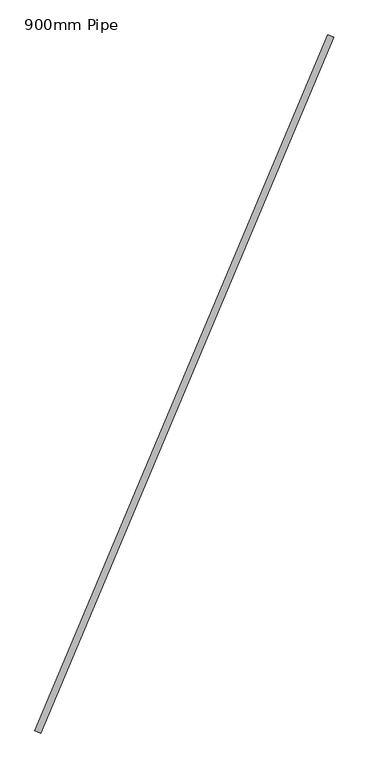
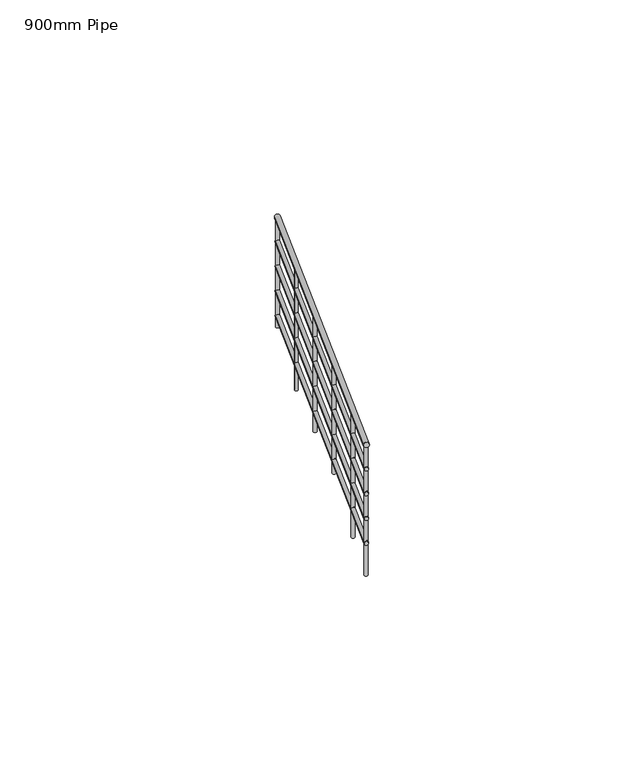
"""IFC4 building model written with IfcOpenShell, lengths in millimetres: railing geometry, 900mm Pipe."""

from ifc_helpers import new_model, si_unit, frame, origin, place, context, project, spatial, circle_curve, ellipse_curve, source, transform, mapped, element, save
from ifc_brep_helpers import plane_surface, cylinder_surface, advanced_brep


def railing_900mm_pipe_fb3da771(model_context):
    return source(origin(), model_context, "Body", "AdvancedBrep", [
        advanced_brep(
        [(937653.2526111, -12699.333507, 8558.3874376), (937616.3871055, -12683.8114423, 8558.3874376), (935825.3570998, -17040.6562541, 9992.7403787), (935788.4915942, -17025.1341895, 9992.7403787)],
        [
            (0, 1, ellipse_curve(frame((937634.8198583, -12691.5724746, 8558.3874376), z_axis=(0.38805161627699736, 0.9216376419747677, 0.0), x_axis=(0.0, 0.0, -0.9999999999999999)), 20.9066801, 20.0)),
            (1, 0, ellipse_curve(frame((937634.8198583, -12691.5724746, 8558.3874376), z_axis=(0.38805161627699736, 0.9216376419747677, 0.0), x_axis=(0.0, 0.0, -0.9999999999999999)), 20.9066801, 20.0)),
            (2, 3, ellipse_curve(frame((935806.924347, -17032.8952218, 9992.7403787), z_axis=(-0.38805161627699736, -0.9216376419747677, 0.0), x_axis=(0.0, 0.0, -0.9999999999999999)), 20.9066801, 20.0)),
            (3, 2, ellipse_curve(frame((935806.924347, -17032.8952218, 9992.7403787), z_axis=(-0.38805161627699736, -0.9216376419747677, 0.0), x_axis=(0.0, 0.0, -0.9999999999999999)), 20.9066801, 20.0)),
            (0, 2),
            (3, 1),
        ],
        [
            plane_surface(frame((937634.8198583, -12691.5724746, 8579.2941176), z_axis=(0.38805161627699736, 0.9216376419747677, 0.0), x_axis=(0.9216376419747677, -0.38805161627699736, 0.0))),
            plane_surface(frame((935806.924347, -17032.8952218, 10013.6470588), z_axis=(-0.38805161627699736, -0.9216376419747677, 0.0), x_axis=(0.9216376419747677, -0.38805161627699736, 0.0))),
            cylinder_surface(frame((937632.5590769, -12696.9419182, 8560.1614769), z_axis=(0.3712226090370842, 0.8816680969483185, -0.29129905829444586), x_axis=(-0.9216376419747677, 0.38805161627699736, 0.0)), 20.0),
        ],
        [
            (0, [[1, 2]]),
            (1, [[3, 4]]),
            (2, [[-1, 5, -4, 6]]),
            (2, [[-2, -6, -3, -5]]),
        ],
    ),
        advanced_brep(
        [(937648.6444229, -12697.3932489, 8363.6141076), (937620.9952937, -12685.7517004, 8363.6141076), (935820.7489116, -17038.715996, 9797.9670488), (935793.0997824, -17027.0744476, 9797.9670488)],
        [
            (0, 1, ellipse_curve(frame((937634.8198583, -12691.5724746, 8363.6141076), z_axis=(0.38805161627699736, 0.9216376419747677, 0.0), x_axis=(0.0, 0.0, -0.9999999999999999)), 15.6800101, 15.0)),
            (1, 0, ellipse_curve(frame((937634.8198583, -12691.5724746, 8363.6141076), z_axis=(0.38805161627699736, 0.9216376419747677, 0.0), x_axis=(0.0, 0.0, -0.9999999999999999)), 15.6800101, 15.0)),
            (2, 3, ellipse_curve(frame((935806.924347, -17032.8952218, 9797.9670488), z_axis=(-0.38805161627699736, -0.9216376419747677, 0.0), x_axis=(0.0, 0.0, -0.9999999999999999)), 15.6800101, 15.0)),
            (3, 2, ellipse_curve(frame((935806.924347, -17032.8952218, 9797.9670488), z_axis=(-0.38805161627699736, -0.9216376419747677, 0.0), x_axis=(0.0, 0.0, -0.9999999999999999)), 15.6800101, 15.0)),
            (0, 2),
            (3, 1),
        ],
        [
            plane_surface(frame((937634.8198583, -12691.5724746, 8379.2941176), z_axis=(0.38805161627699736, 0.9216376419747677, 0.0), x_axis=(0.9216376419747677, -0.38805161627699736, 0.0))),
            plane_surface(frame((935806.924347, -17032.8952218, 9813.6470588), z_axis=(-0.38805161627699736, -0.9216376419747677, 0.0), x_axis=(0.9216376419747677, -0.38805161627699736, 0.0))),
            cylinder_surface(frame((937633.1242723, -12695.5995573, 8364.9446371), z_axis=(0.3712226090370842, 0.8816680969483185, -0.29129905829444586), x_axis=(-0.9216376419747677, 0.38805161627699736, 0.0)), 15.0),
        ],
        [
            (0, [[1, 2]]),
            (1, [[3, 4]]),
            (2, [[-1, 5, -4, 6]]),
            (2, [[-2, -6, -3, -5]]),
        ],
    ),
        advanced_brep(
        [(937648.6444229, -12697.3932489, 8163.6141076), (937620.9952937, -12685.7517004, 8163.6141076), (935820.7489116, -17038.715996, 9597.9670488), (935793.0997824, -17027.0744476, 9597.9670488)],
        [
            (0, 1, ellipse_curve(frame((937634.8198583, -12691.5724746, 8163.6141076), z_axis=(0.38805161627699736, 0.9216376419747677, 0.0), x_axis=(0.0, 0.0, -0.9999999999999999)), 15.6800101, 15.0)),
            (1, 0, ellipse_curve(frame((937634.8198583, -12691.5724746, 8163.6141076), z_axis=(0.38805161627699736, 0.9216376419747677, 0.0), x_axis=(0.0, 0.0, -0.9999999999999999)), 15.6800101, 15.0)),
            (2, 3, ellipse_curve(frame((935806.924347, -17032.8952218, 9597.9670488), z_axis=(-0.38805161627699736, -0.9216376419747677, 0.0), x_axis=(0.0, 0.0, -0.9999999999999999)), 15.6800101, 15.0)),
            (3, 2, ellipse_curve(frame((935806.924347, -17032.8952218, 9597.9670488), z_axis=(-0.38805161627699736, -0.9216376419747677, 0.0), x_axis=(0.0, 0.0, -0.9999999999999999)), 15.6800101, 15.0)),
            (0, 2),
            (3, 1),
        ],
        [
            plane_surface(frame((937634.8198583, -12691.5724746, 8179.2941176), z_axis=(0.38805161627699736, 0.9216376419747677, 0.0), x_axis=(0.9216376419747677, -0.38805161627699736, 0.0))),
            plane_surface(frame((935806.924347, -17032.8952218, 9613.6470588), z_axis=(-0.38805161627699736, -0.9216376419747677, 0.0), x_axis=(0.9216376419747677, -0.38805161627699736, 0.0))),
            cylinder_surface(frame((937633.1242723, -12695.5995573, 8164.9446371), z_axis=(0.3712226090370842, 0.8816680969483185, -0.29129905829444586), x_axis=(-0.9216376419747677, 0.38805161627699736, 0.0)), 15.0),
        ],
        [
            (0, [[1, 2]]),
            (1, [[3, 4]]),
            (2, [[-1, 5, -4, 6]]),
            (2, [[-2, -6, -3, -5]]),
        ],
    ),
        advanced_brep(
        [(937648.6444229, -12697.3932489, 7963.6141076), (937620.9952937, -12685.7517004, 7963.6141076), (935820.7489116, -17038.715996, 9397.9670488), (935793.0997824, -17027.0744476, 9397.9670488)],
        [
            (0, 1, ellipse_curve(frame((937634.8198583, -12691.5724746, 7963.6141076), z_axis=(0.38805161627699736, 0.9216376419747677, 0.0), x_axis=(0.0, 0.0, -0.9999999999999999)), 15.6800101, 15.0)),
            (1, 0, ellipse_curve(frame((937634.8198583, -12691.5724746, 7963.6141076), z_axis=(0.38805161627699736, 0.9216376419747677, 0.0), x_axis=(0.0, 0.0, -0.9999999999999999)), 15.6800101, 15.0)),
            (2, 3, ellipse_curve(frame((935806.924347, -17032.8952218, 9397.9670488), z_axis=(-0.38805161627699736, -0.9216376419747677, 0.0), x_axis=(0.0, 0.0, -0.9999999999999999)), 15.6800101, 15.0)),
            (3, 2, ellipse_curve(frame((935806.924347, -17032.8952218, 9397.9670488), z_axis=(-0.38805161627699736, -0.9216376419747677, 0.0), x_axis=(0.0, 0.0, -0.9999999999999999)), 15.6800101, 15.0)),
            (0, 2),
            (3, 1),
        ],
        [
            plane_surface(frame((937634.8198583, -12691.5724746, 7979.2941176), z_axis=(0.38805161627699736, 0.9216376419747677, 0.0), x_axis=(0.9216376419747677, -0.38805161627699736, 0.0))),
            plane_surface(frame((935806.924347, -17032.8952218, 9413.6470588), z_axis=(-0.38805161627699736, -0.9216376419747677, 0.0), x_axis=(0.9216376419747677, -0.38805161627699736, 0.0))),
            cylinder_surface(frame((937633.1242723, -12695.5995573, 7964.9446371), z_axis=(0.3712226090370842, 0.8816680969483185, -0.29129905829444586), x_axis=(-0.9216376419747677, 0.38805161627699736, 0.0)), 15.0),
        ],
        [
            (0, [[1, 2]]),
            (1, [[3, 4]]),
            (2, [[-1, 5, -4, 6]]),
            (2, [[-2, -6, -3, -5]]),
        ],
    ),
        advanced_brep(
        [(937648.6444229, -12697.3932489, 7763.6141076), (937620.9952937, -12685.7517004, 7763.6141076), (935820.7489116, -17038.715996, 9197.9670488), (935793.0997824, -17027.0744476, 9197.9670488)],
        [
            (0, 1, ellipse_curve(frame((937634.8198583, -12691.5724746, 7763.6141076), z_axis=(0.38805161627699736, 0.9216376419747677, 0.0), x_axis=(0.0, 0.0, -0.9999999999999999)), 15.6800101, 15.0)),
            (1, 0, ellipse_curve(frame((937634.8198583, -12691.5724746, 7763.6141076), z_axis=(0.38805161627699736, 0.9216376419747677, 0.0), x_axis=(0.0, 0.0, -0.9999999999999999)), 15.6800101, 15.0)),
            (2, 3, ellipse_curve(frame((935806.924347, -17032.8952218, 9197.9670488), z_axis=(-0.38805161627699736, -0.9216376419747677, 0.0), x_axis=(0.0, 0.0, -0.9999999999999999)), 15.6800101, 15.0)),
            (3, 2, ellipse_curve(frame((935806.924347, -17032.8952218, 9197.9670488), z_axis=(-0.38805161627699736, -0.9216376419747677, 0.0), x_axis=(0.0, 0.0, -0.9999999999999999)), 15.6800101, 15.0)),
            (0, 2),
            (3, 1),
        ],
        [
            plane_surface(frame((937634.8198583, -12691.5724746, 7779.2941176), z_axis=(0.38805161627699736, 0.9216376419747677, 0.0), x_axis=(0.9216376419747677, -0.38805161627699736, 0.0))),
            plane_surface(frame((935806.924347, -17032.8952218, 9213.6470588), z_axis=(-0.38805161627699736, -0.9216376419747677, 0.0), x_axis=(0.9216376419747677, -0.38805161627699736, 0.0))),
            cylinder_surface(frame((937633.1242723, -12695.5995573, 7764.9446371), z_axis=(0.3712226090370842, 0.8816680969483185, -0.29129905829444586), x_axis=(-0.9216376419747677, 0.38805161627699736, 0.0)), 15.0),
        ],
        [
            (0, [[1, 2]]),
            (1, [[3, 4]]),
            (2, [[-1, 5, -4, 6]]),
            (2, [[-2, -6, -3, -5]]),
        ],
    ),
        advanced_brep(
        [(936071.0929227, -16373.2723973, 9755.5000013), (936071.0929227, -16373.2723973, 8755.0588235), (936094.1338637, -16382.9736877, 8755.0588235), (936094.1338637, -16382.9736877, 9755.5000013)],
        [
            (0, 1),
            (1, 2, circle_curve(frame((936082.6133932, -16378.1230425, 8755.0588235), z_axis=(0.0, 0.0, 1.0), x_axis=(0.9216376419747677, -0.3880516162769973, 0.0)), 12.5)),
            (2, 3),
            (3, 0, ellipse_curve(frame((936082.6133932, -16378.1230425, 9755.5000013), z_axis=(-0.11303907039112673, -0.2684721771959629, -0.9566320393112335), x_axis=(-0.3712226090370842, -0.8816680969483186, 0.29129905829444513)), 13.066675, 12.5)),
            (0, 3, ellipse_curve(frame((936082.6133932, -16378.1230425, 9755.5000013), z_axis=(-0.11303907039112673, -0.2684721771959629, -0.9566320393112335), x_axis=(-0.3712226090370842, -0.8816680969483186, 0.29129905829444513)), 13.066675, 12.5)),
            (2, 1, circle_curve(frame((936082.6133932, -16378.1230425, 8755.0588235), z_axis=(0.0, 0.0, 1.0), x_axis=(0.9216376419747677, -0.3880516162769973, 0.0)), 12.5)),
        ],
        [
            cylinder_surface(frame((936082.6133932, -16378.1230425, 8655.0588235), z_axis=(0.0, 0.0, 1.0), x_axis=(0.9216376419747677, -0.3880516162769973, 0.0)), 12.5),
            plane_surface(frame((936095.9530438, -16410.865274, 9763.1126216), z_axis=(0.11303907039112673, 0.2684721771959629, 0.9566320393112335), x_axis=(-0.9216376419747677, 0.3880516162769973, 0.0))),
            plane_surface(frame((936115.3556247, -16364.7833919, 8755.0588235), z_axis=(0.0, 0.0, -1.0), x_axis=(-0.9216376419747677, 0.3880516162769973, 0.0))),
        ],
        [
            (0, [[1, 2, 3, 4]]),
            (0, [[-1, 5, -3, 6]]),
            (1, [[-4, -5]]),
            (2, [[-2, -6]]),
        ],
    ),
        advanced_brep(
        [(936459.144539, -15451.6347554, 9450.9951904), (936459.144539, -15451.6347554, 8575.7647059), (936482.18548, -15461.3360458, 8575.7647059), (936482.18548, -15461.3360458, 9450.9951904)],
        [
            (0, 1),
            (1, 2, circle_curve(frame((936470.6650095, -15456.4854006, 8575.7647059), z_axis=(0.0, 0.0, 1.0), x_axis=(0.9216376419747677, -0.3880516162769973, 0.0)), 12.5)),
            (2, 3),
            (3, 0, ellipse_curve(frame((936470.6650095, -15456.4854006, 9450.9951904), z_axis=(-0.11303907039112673, -0.2684721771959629, -0.9566320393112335), x_axis=(-0.3712226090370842, -0.8816680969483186, 0.29129905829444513)), 13.066675, 12.5)),
            (0, 3, ellipse_curve(frame((936470.6650095, -15456.4854006, 9450.9951904), z_axis=(-0.11303907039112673, -0.2684721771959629, -0.9566320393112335), x_axis=(-0.3712226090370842, -0.8816680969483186, 0.29129905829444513)), 13.066675, 12.5)),
            (2, 1, circle_curve(frame((936470.6650095, -15456.4854006, 8575.7647059), z_axis=(0.0, 0.0, 1.0), x_axis=(0.9216376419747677, -0.3880516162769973, 0.0)), 12.5)),
        ],
        [
            cylinder_surface(frame((936470.6650095, -15456.4854006, 8475.7647059), z_axis=(0.0, 0.0, 1.0), x_axis=(0.9216376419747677, -0.3880516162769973, 0.0)), 12.5),
            plane_surface(frame((936484.0046601, -15489.227632, 9458.6078107), z_axis=(0.11303907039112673, 0.2684721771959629, 0.9566320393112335), x_axis=(-0.9216376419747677, 0.3880516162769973, 0.0))),
            plane_surface(frame((936503.4072409, -15443.1457499, 8575.7647059), z_axis=(0.0, 0.0, -1.0), x_axis=(-0.9216376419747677, 0.3880516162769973, 0.0))),
        ],
        [
            (0, [[1, 2, 3, 4]]),
            (0, [[-1, 5, -3, 6]]),
            (1, [[-4, -5]]),
            (2, [[-2, -6]]),
        ],
    ),
        advanced_brep(
        [(936847.1961552, -14529.9971134, 9146.4903794), (936847.1961552, -14529.9971134, 8217.1764706), (936870.2370963, -14539.6984038, 8217.1764706), (936870.2370963, -14539.6984038, 9146.4903794)],
        [
            (0, 1),
            (1, 2, circle_curve(frame((936858.7166258, -14534.8477586, 8217.1764706), z_axis=(0.0, 0.0, 1.0), x_axis=(0.9216376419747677, -0.3880516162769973, 0.0)), 12.5)),
            (2, 3),
            (3, 0, ellipse_curve(frame((936858.7166258, -14534.8477586, 9146.4903794), z_axis=(-0.11303907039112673, -0.2684721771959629, -0.9566320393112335), x_axis=(-0.3712226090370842, -0.8816680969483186, 0.29129905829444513)), 13.066675, 12.5)),
            (0, 3, ellipse_curve(frame((936858.7166258, -14534.8477586, 9146.4903794), z_axis=(-0.11303907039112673, -0.2684721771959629, -0.9566320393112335), x_axis=(-0.3712226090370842, -0.8816680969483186, 0.29129905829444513)), 13.066675, 12.5)),
            (2, 1, circle_curve(frame((936858.7166258, -14534.8477586, 8217.1764706), z_axis=(0.0, 0.0, 1.0), x_axis=(0.9216376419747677, -0.3880516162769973, 0.0)), 12.5)),
        ],
        [
            cylinder_surface(frame((936858.7166258, -14534.8477586, 8117.1764706), z_axis=(0.0, 0.0, 1.0), x_axis=(0.9216376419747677, -0.3880516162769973, 0.0)), 12.5),
            plane_surface(frame((936872.0562764, -14567.58999, 9154.1029997), z_axis=(0.11303907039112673, 0.2684721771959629, 0.9566320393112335), x_axis=(-0.9216376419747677, 0.3880516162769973, 0.0))),
            plane_surface(frame((936891.4588572, -14521.5081079, 8217.1764706), z_axis=(0.0, 0.0, -1.0), x_axis=(-0.9216376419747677, 0.3880516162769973, 0.0))),
        ],
        [
            (0, [[1, 2, 3, 4]]),
            (0, [[-1, 5, -3, 6]]),
            (1, [[-4, -5]]),
            (2, [[-2, -6]]),
        ],
    ),
        advanced_brep(
        [(937235.2477715, -13608.3594714, 8841.9855684), (937235.2477715, -13608.3594714, 7858.5882353), (937258.2887126, -13618.0607618, 7858.5882353), (937258.2887126, -13618.0607618, 8841.9855684)],
        [
            (0, 1),
            (1, 2, circle_curve(frame((937246.768242, -13613.2101166, 7858.5882353), z_axis=(0.0, 0.0, 1.0), x_axis=(0.9216376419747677, -0.3880516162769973, 0.0)), 12.5)),
            (2, 3),
            (3, 0, ellipse_curve(frame((937246.768242, -13613.2101166, 8841.9855684), z_axis=(-0.11303907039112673, -0.2684721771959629, -0.9566320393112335), x_axis=(-0.3712226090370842, -0.8816680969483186, 0.29129905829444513)), 13.066675, 12.5)),
            (0, 3, ellipse_curve(frame((937246.768242, -13613.2101166, 8841.9855684), z_axis=(-0.11303907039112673, -0.2684721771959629, -0.9566320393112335), x_axis=(-0.3712226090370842, -0.8816680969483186, 0.29129905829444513)), 13.066675, 12.5)),
            (2, 1, circle_curve(frame((937246.768242, -13613.2101166, 7858.5882353), z_axis=(0.0, 0.0, 1.0), x_axis=(0.9216376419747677, -0.3880516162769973, 0.0)), 12.5)),
        ],
        [
            cylinder_surface(frame((937246.768242, -13613.2101166, 7758.5882353), z_axis=(0.0, 0.0, 1.0), x_axis=(0.9216376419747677, -0.3880516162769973, 0.0)), 12.5),
            plane_surface(frame((937260.1078927, -13645.9523481, 8849.5981887), z_axis=(0.11303907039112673, 0.2684721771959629, 0.9566320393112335), x_axis=(-0.9216376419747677, 0.3880516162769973, 0.0))),
            plane_surface(frame((937279.5104735, -13599.870466, 7858.5882353), z_axis=(0.0, 0.0, -1.0), x_axis=(-0.9216376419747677, 0.3880516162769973, 0.0))),
        ],
        [
            (0, [[1, 2, 3, 4]]),
            (0, [[-1, 5, -3, 6]]),
            (1, [[-4, -5]]),
            (2, [[-2, -6]]),
        ],
    ),
        advanced_brep(
        [(935800.2545217, -17016.5241061, 9968.0273885), (935800.2545217, -17016.5241061, 8934.3529412), (935823.2954627, -17026.2253965, 8934.3529412), (935823.2954627, -17026.2253965, 9968.0273885)],
        [
            (0, 1),
            (1, 2, circle_curve(frame((935811.7749922, -17021.3747513, 8934.3529412), z_axis=(0.0, 0.0, 1.0), x_axis=(0.9216376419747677, -0.3880516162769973, 0.0)), 12.5)),
            (2, 3),
            (3, 0, ellipse_curve(frame((935811.7749922, -17021.3747513, 9968.0273885), z_axis=(-0.11303907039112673, -0.2684721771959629, -0.9566320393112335), x_axis=(-0.3712226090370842, -0.8816680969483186, 0.29129905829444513)), 13.066675, 12.5)),
            (0, 3, ellipse_curve(frame((935811.7749922, -17021.3747513, 9968.0273885), z_axis=(-0.11303907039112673, -0.2684721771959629, -0.9566320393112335), x_axis=(-0.3712226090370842, -0.8816680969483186, 0.29129905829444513)), 13.066675, 12.5)),
            (2, 1, circle_curve(frame((935811.7749922, -17021.3747513, 8934.3529412), z_axis=(0.0, 0.0, 1.0), x_axis=(0.9216376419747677, -0.3880516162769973, 0.0)), 12.5)),
        ],
        [
            cylinder_surface(frame((935811.7749922, -17021.3747513, 8834.3529412), z_axis=(0.0, 0.0, 1.0), x_axis=(0.9216376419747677, -0.3880516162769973, 0.0)), 12.5),
            plane_surface(frame((935825.1146428, -17054.1169827, 9975.6400088), z_axis=(0.11303907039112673, 0.2684721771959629, 0.9566320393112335), x_axis=(-0.9216376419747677, 0.3880516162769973, 0.0))),
            plane_surface(frame((935844.5172237, -17008.0351006, 8934.3529412), z_axis=(0.0, 0.0, -1.0), x_axis=(-0.9216376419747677, 0.3880516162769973, 0.0))),
        ],
        [
            (0, [[1, 2, 3, 4]]),
            (0, [[-1, 5, -3, 6]]),
            (1, [[-4, -5]]),
            (2, [[-2, -6]]),
        ],
    ),
        advanced_brep(
        [(937618.4487426, -12698.2423, 8541.2870676), (937618.4487426, -12698.2423, 7679.2941176), (937641.4896836, -12707.9435904, 7679.2941176), (937641.4896836, -12707.9435904, 8541.2870676)],
        [
            (0, 1),
            (1, 2, circle_curve(frame((937629.9692131, -12703.0929452, 7679.2941176), z_axis=(0.0, 0.0, 1.0), x_axis=(0.9216376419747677, -0.3880516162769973, 0.0)), 12.5)),
            (2, 3),
            (3, 0, ellipse_curve(frame((937629.9692131, -12703.0929452, 8541.2870676), z_axis=(-0.11303907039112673, -0.2684721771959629, -0.9566320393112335), x_axis=(-0.3712226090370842, -0.8816680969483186, 0.29129905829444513)), 13.066675, 12.5)),
            (0, 3, ellipse_curve(frame((937629.9692131, -12703.0929452, 8541.2870676), z_axis=(-0.11303907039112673, -0.2684721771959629, -0.9566320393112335), x_axis=(-0.3712226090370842, -0.8816680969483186, 0.29129905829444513)), 13.066675, 12.5)),
            (2, 1, circle_curve(frame((937629.9692131, -12703.0929452, 7679.2941176), z_axis=(0.0, 0.0, 1.0), x_axis=(0.9216376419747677, -0.3880516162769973, 0.0)), 12.5)),
        ],
        [
            cylinder_surface(frame((937629.9692131, -12703.0929452, 7579.2941176), z_axis=(0.0, 0.0, 1.0), x_axis=(0.9216376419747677, -0.3880516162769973, 0.0)), 12.5),
            plane_surface(frame((937643.3088637, -12735.8351766, 8548.8996879), z_axis=(0.11303907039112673, 0.2684721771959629, 0.9566320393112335), x_axis=(-0.9216376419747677, 0.3880516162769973, 0.0))),
            plane_surface(frame((937662.7114446, -12689.7532945, 7679.2941176), z_axis=(0.0, 0.0, -1.0), x_axis=(-0.9216376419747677, 0.3880516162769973, 0.0))),
        ],
        [
            (0, [[1, 2, 3, 4]]),
            (0, [[-1, 5, -3, 6]]),
            (1, [[-4, -5]]),
            (2, [[-2, -6]]),
        ],
    ),
    ])


if __name__ == "__main__":
    model = new_model("IFC4")
    model_context = context("Model", 3, world=origin())
    ifc_project = project(units=[si_unit("LENGTHUNIT", "METRE", prefix="MILLI")], contexts=[model_context])
    site = spatial("IfcSite", under=ifc_project)
    building = spatial("IfcBuilding", under=site)
    placement = place(None, origin())
    railing_900mm_pipe_shape = railing_900mm_pipe_fb3da771(model_context)
    element("IfcRailing", 1, ObjectType="900mm Pipe", at=placement, inside=building, context=model_context, shape_type="MappedRepresentation", body=[
        mapped(railing_900mm_pipe_shape, transform((0.0, 0.0, 0.0), x_axis=(1.0, 0.0, 0.0), y_axis=(0.0, 1.0, 0.0), z_axis=(0.0, 0.0, 1.0))),
    ])
    save(model, "model.ifc")
